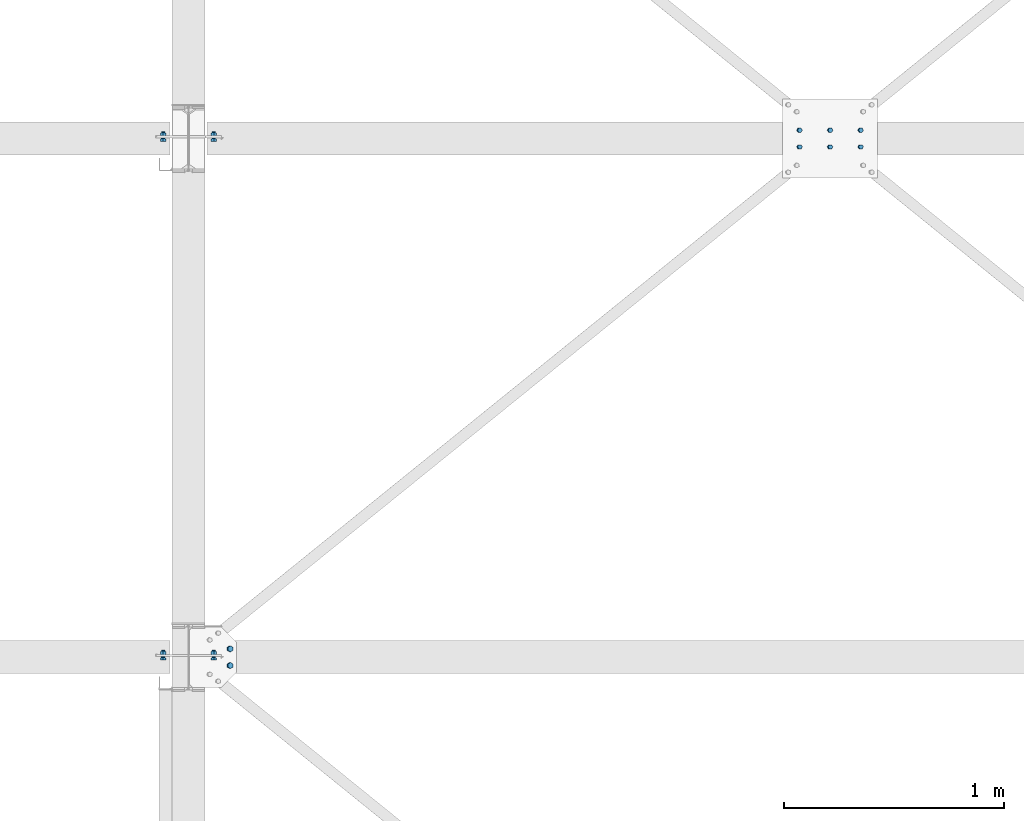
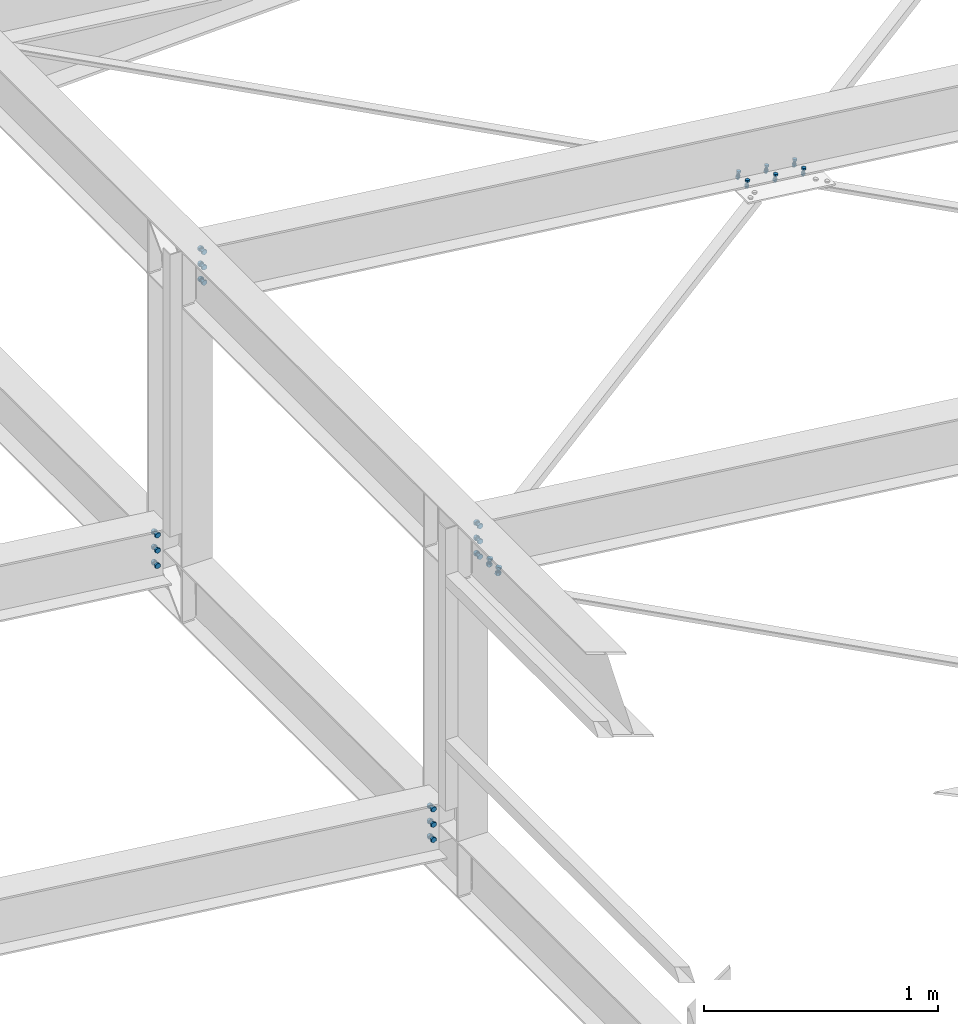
# One storey, part 134 of 3134: 6 mechanical fasteners, 4 elements without a shape of their own.
"""IFC2X3 building model written with IfcOpenShell, lengths in millimetres."""

from ifc_helpers import new_model, si_unit, frame, origin_with_axes, place, context, subcontext, project, spatial, faceted_brep, source, transform, mapped, material, type_object, element, aggregate, save


model = new_model("IFC2X3")

# Units and contexts
model_context = context("Model", 3, precision=1e-05, world=origin_with_axes())
body_context = subcontext(model_context, "Body", "Model", "MODEL_VIEW")
ifc_project = project(units=[si_unit("LENGTHUNIT", "METRE", prefix="MILLI"), si_unit("AREAUNIT", "SQUARE_METRE"), si_unit("VOLUMEUNIT", "CUBIC_METRE"), si_unit("MASSUNIT", "GRAM", prefix="KILO"), si_unit("TIMEUNIT", "SECOND"), si_unit("PLANEANGLEUNIT", "RADIAN"), si_unit("SOLIDANGLEUNIT", "STERADIAN"), si_unit("THERMODYNAMICTEMPERATUREUNIT", "DEGREE_CELSIUS"), si_unit("LUMINOUSINTENSITYUNIT", "LUMEN")], contexts=[model_context])

# Site, building, storey
site_placement = place(None, origin_with_axes())
site = spatial("IfcSite", under=ifc_project, at=site_placement, CompositionType="ELEMENT")
building_placement = place(site_placement, origin_with_axes())
building = spatial("IfcBuilding", under=site, at=building_placement, Name="Undefined", CompositionType="ELEMENT")
storey_placement = place(building_placement, origin_with_axes())
storey = spatial("IfcBuildingStorey", under=building, at=storey_placement, Name="Undefined", CompositionType="ELEMENT", Elevation=0.0)

# Assembly, mechanical fasteners
assembly_1_placement = place(storey_placement, origin_with_axes())
assembly_1 = element("IfcElementAssembly", 1, at=assembly_1_placement, inside=storey, Name="300", AssemblyPlace="NOTDEFINED", PredefinedType="RIGID_FRAME")
ifc_material = material(Name="8.8")
mechanical_fastener_type = type_object("IfcMechanicalFastenerType", Name="Bolt assembly")
shared_shape_1 = source(origin_with_axes(), body_context, "Body", "Brep", [
    faceted_brep([(13.856406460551, -19.199990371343, 0.0), (6.92820323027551, -19.199990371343, 12.0), (-6.92820323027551, -19.199990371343, 12.0), (-13.856406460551, -19.199990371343, 1.69692038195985e-15), (-6.92820323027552, -19.199990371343, -12.0), (6.9282032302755, -19.199990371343, -12.0), (6.9282032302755, -9.19999037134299, -12.0), (-6.92820323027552, -9.19999037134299, -12.0), (-13.856406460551, -9.19999037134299, 1.69692038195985e-15), (-6.92820323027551, -9.19999037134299, 12.0), (6.92820323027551, -9.19999037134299, 12.0), (13.856406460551, -9.19999037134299, 0.0), (8.0, -9.19999037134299, 0.0), (6.92820323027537, -9.19999037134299, 4.00000000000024), (3.99999999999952, -9.19999037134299, 6.92820323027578), (-8.29068785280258e-13, -9.19999037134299, 8.0), (-4.00000000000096, -9.19999037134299, 6.92820323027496), (-6.9282032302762, -9.19999037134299, 3.99999999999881), (-8.0, -9.19999037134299, -1.65813757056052e-12), (-6.92820323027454, -9.19999037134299, -4.00000000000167), (-3.99999999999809, -9.19999037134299, -6.92820323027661), (2.47832457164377e-12, -9.19999037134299, -8.0), (4.00000000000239, -9.19999037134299, -6.92820323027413), (6.92820323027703, -9.19999037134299, -3.99999999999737), (6.92820323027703, 25.800009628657, -3.99999999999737), (4.00000000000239, 25.800009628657, -6.92820323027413), (2.47832457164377e-12, 25.800009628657, -8.0), (-3.99999999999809, 25.800009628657, -6.92820323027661), (-6.92820323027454, 25.800009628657, -4.00000000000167), (-8.0, 25.800009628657, -1.65813757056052e-12), (-6.9282032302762, 25.800009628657, 3.99999999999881), (-4.00000000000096, 25.800009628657, 6.92820323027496), (-8.29068785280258e-13, 25.800009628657, 8.0), (3.99999999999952, 25.800009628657, 6.92820323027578), (6.92820323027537, 25.800009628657, 4.00000000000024), (8.0, 25.800009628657, 0.0), (13.856406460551, 8.00000637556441, 0.0), (6.92820323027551, 8.00000637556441, 12.0), (-6.92820323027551, 8.00000637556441, 12.0), (-13.856406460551, 8.00000637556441, 1.69692038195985e-15), (-6.92820323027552, 8.00000637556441, -12.0), (6.9282032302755, 8.00000637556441, -12.0), (6.9282032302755, 21.0000063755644, -12.0), (-6.92820323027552, 21.0000063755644, -12.0), (-13.856406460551, 21.0000063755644, 1.69692038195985e-15), (-6.92820323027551, 21.0000063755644, 12.0), (6.92820323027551, 21.0000063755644, 12.0), (13.856406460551, 21.0000063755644, 0.0)], [[[0, 1, 2, 3, 4, 5]], [[6, 7, 8, 9, 10, 11]], [[0, 11, 10, 1]], [[1, 10, 9, 2]], [[2, 9, 8, 3]], [[3, 8, 7, 4]], [[4, 7, 6, 5]], [[5, 6, 11, 0]], [[12, 13, 14, 15, 16, 17, 18, 19, 20, 21, 22, 23]], [[24, 25, 26, 27, 28, 29, 30, 31, 32, 33, 34, 35]], [[12, 35, 34, 13]], [[13, 34, 33, 14]], [[14, 33, 32, 15]], [[15, 32, 31, 16]], [[16, 31, 30, 17]], [[17, 30, 29, 18]], [[18, 29, 28, 19]], [[19, 28, 27, 20]], [[20, 27, 26, 21]], [[21, 26, 25, 22]], [[22, 25, 24, 23]], [[23, 24, 35, 12]], [[36, 37, 38, 39, 40, 41]], [[42, 43, 44, 45, 46, 47]], [[36, 47, 46, 37]], [[37, 46, 45, 38]], [[38, 45, 44, 39]], [[39, 44, 43, 40]], [[40, 43, 42, 41]], [[41, 42, 47, 36]]]),
    faceted_brep([(9.0, -0.1, 0.0), (7.79422863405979, -0.1, 4.50000000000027), (4.49999999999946, -0.1, 7.79422863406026), (-9.3270238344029e-13, -0.1, 9.0), (-4.50000000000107, -0.1, 7.79422863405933), (-7.79422863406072, -0.1, 4.49999999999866), (-9.0, -0.1, -1.86540476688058e-12), (-7.79422863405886, -0.1, -4.50000000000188), (-4.49999999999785, -0.1, -7.79422863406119), (2.78811514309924e-12, -0.1, -9.0), (4.50000000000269, -0.1, -7.7942286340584), (7.79422863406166, -0.1, -4.49999999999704), (7.79422863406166, 8.00000000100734, -4.49999999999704), (4.50000000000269, 8.00000000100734, -7.7942286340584), (2.78811514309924e-12, 8.00000000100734, -9.0), (-4.49999999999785, 8.00000000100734, -7.79422863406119), (-7.79422863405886, 8.00000000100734, -4.50000000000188), (-9.0, 8.00000000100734, -1.86540476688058e-12), (-7.79422863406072, 8.00000000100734, 4.49999999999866), (-4.50000000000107, 8.00000000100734, 7.79422863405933), (-9.3270238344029e-13, 8.00000000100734, 9.0), (4.49999999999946, 8.00000000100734, 7.79422863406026), (7.79422863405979, 8.00000000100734, 4.50000000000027), (9.0, 8.00000000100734, 0.0), (9.0, -9.09999037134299, 0.0), (7.79422863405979, -9.09999037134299, 4.50000000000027), (4.49999999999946, -9.09999037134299, 7.79422863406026), (-9.3270238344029e-13, -9.09999037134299, 9.0), (-4.50000000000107, -9.09999037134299, 7.79422863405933), (-7.79422863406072, -9.09999037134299, 4.49999999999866), (-9.0, -9.09999037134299, -1.86540476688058e-12), (-7.79422863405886, -9.09999037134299, -4.50000000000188), (-4.49999999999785, -9.09999037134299, -7.79422863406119), (2.78811514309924e-12, -9.09999037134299, -9.0), (4.50000000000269, -9.09999037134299, -7.7942286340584), (7.79422863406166, -9.09999037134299, -4.49999999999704), (7.79422863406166, 0.100000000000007, -4.49999999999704), (4.50000000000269, 0.100000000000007, -7.7942286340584), (2.78811514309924e-12, 0.100000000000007, -9.0), (-4.49999999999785, 0.100000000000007, -7.79422863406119), (-7.79422863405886, 0.100000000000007, -4.50000000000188), (-9.0, 0.100000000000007, -1.86540476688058e-12), (-7.79422863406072, 0.100000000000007, 4.49999999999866), (-4.50000000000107, 0.100000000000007, 7.79422863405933), (-9.3270238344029e-13, 0.100000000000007, 9.0), (4.49999999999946, 0.100000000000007, 7.79422863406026), (7.79422863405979, 0.100000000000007, 4.50000000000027), (9.0, 0.100000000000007, 0.0)], [[[0, 1, 2, 3, 4, 5, 6, 7, 8, 9, 10, 11]], [[12, 13, 14, 15, 16, 17, 18, 19, 20, 21, 22, 23]], [[0, 23, 22, 1]], [[1, 22, 21, 2]], [[2, 21, 20, 3]], [[3, 20, 19, 4]], [[4, 19, 18, 5]], [[5, 18, 17, 6]], [[6, 17, 16, 7]], [[7, 16, 15, 8]], [[8, 15, 14, 9]], [[9, 14, 13, 10]], [[10, 13, 12, 11]], [[11, 12, 23, 0]], [[24, 25, 26, 27, 28, 29, 30, 31, 32, 33, 34, 35]], [[36, 37, 38, 39, 40, 41, 42, 43, 44, 45, 46, 47]], [[24, 47, 46, 25]], [[25, 46, 45, 26]], [[26, 45, 44, 27]], [[27, 44, 43, 28]], [[28, 43, 42, 29]], [[29, 42, 41, 30]], [[30, 41, 40, 31]], [[31, 40, 39, 32]], [[32, 39, 38, 33]], [[33, 38, 37, 34]], [[34, 37, 36, 35]], [[35, 36, 47, 24]]]),
])
mechanical_fastener_1_placement = place(assembly_1_placement, frame((32714.2248162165, 14767.9995130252, 5496.68063425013), z_axis=(0.992623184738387, 1.63108538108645e-05, -0.12124031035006), x_axis=(1.62000016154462e-05, -0.999999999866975, -1.90000018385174e-06)))
mechanical_fastener_1 = element("IfcMechanicalFastener", 2, at=mechanical_fastener_1_placement, type_object=mechanical_fastener_type, material=ifc_material, Name="Bolt assembly", NominalDiameter=16.0, NominalLength=35.0, context=body_context, shape_type="MappedRepresentation", body=[
    mapped(shared_shape_1, transform((0.0, 0.0, 0.0))),
    mapped(shared_shape_1, transform((76.0, 0.0, 0.0))),
])
shared_shape_2 = source(origin_with_axes(), body_context, "Body", "Brep", [
    faceted_brep([(13.856406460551, -13.0499999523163, 0.0), (6.92820323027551, -13.0499999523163, 12.0), (-6.92820323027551, -13.0499999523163, 12.0), (-13.856406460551, -13.0499999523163, 1.69692038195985e-15), (-6.92820323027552, -13.0499999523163, -12.0), (6.9282032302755, -13.0499999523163, -12.0), (6.9282032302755, -3.04999995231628, -12.0), (-6.92820323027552, -3.04999995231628, -12.0), (-13.856406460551, -3.04999995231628, 1.69692038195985e-15), (-6.92820323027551, -3.04999995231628, 12.0), (6.92820323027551, -3.04999995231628, 12.0), (13.856406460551, -3.04999995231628, 0.0), (8.0, -3.04999995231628, 0.0), (6.92820323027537, -3.04999995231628, 4.00000000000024), (3.99999999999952, -3.04999995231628, 6.92820323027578), (-8.29068785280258e-13, -3.04999995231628, 8.0), (-4.00000000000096, -3.04999995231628, 6.92820323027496), (-6.9282032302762, -3.04999995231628, 3.99999999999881), (-8.0, -3.04999995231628, -1.65813757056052e-12), (-6.92820323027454, -3.04999995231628, -4.00000000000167), (-3.99999999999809, -3.04999995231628, -6.92820323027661), (2.47832457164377e-12, -3.04999995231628, -8.0), (4.00000000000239, -3.04999995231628, -6.92820323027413), (6.92820323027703, -3.04999995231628, -3.99999999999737), (6.92820323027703, 31.9500000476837, -3.99999999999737), (4.00000000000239, 31.9500000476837, -6.92820323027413), (2.47832457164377e-12, 31.9500000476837, -8.0), (-3.99999999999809, 31.9500000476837, -6.92820323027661), (-6.92820323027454, 31.9500000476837, -4.00000000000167), (-8.0, 31.9500000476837, -1.65813757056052e-12), (-6.9282032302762, 31.9500000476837, 3.99999999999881), (-4.00000000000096, 31.9500000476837, 6.92820323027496), (-8.29068785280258e-13, 31.9500000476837, 8.0), (3.99999999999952, 31.9500000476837, 6.92820323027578), (6.92820323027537, 31.9500000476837, 4.00000000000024), (8.0, 31.9500000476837, 0.0), (13.856406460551, 13.0500000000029, 0.0), (6.92820323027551, 13.0500000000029, 12.0), (-6.92820323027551, 13.0500000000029, 12.0), (-13.856406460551, 13.0500000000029, 1.69692038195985e-15), (-6.92820323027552, 13.0500000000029, -12.0), (6.9282032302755, 13.0500000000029, -12.0), (6.9282032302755, 26.0500000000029, -12.0), (-6.92820323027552, 26.0500000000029, -12.0), (-13.856406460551, 26.0500000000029, 1.69692038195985e-15), (-6.92820323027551, 26.0500000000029, 12.0), (6.92820323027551, 26.0500000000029, 12.0), (13.856406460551, 26.0500000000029, 0.0)], [[[0, 1, 2, 3, 4, 5]], [[6, 7, 8, 9, 10, 11]], [[0, 11, 10, 1]], [[1, 10, 9, 2]], [[2, 9, 8, 3]], [[3, 8, 7, 4]], [[4, 7, 6, 5]], [[5, 6, 11, 0]], [[12, 13, 14, 15, 16, 17, 18, 19, 20, 21, 22, 23]], [[24, 25, 26, 27, 28, 29, 30, 31, 32, 33, 34, 35]], [[12, 35, 34, 13]], [[13, 34, 33, 14]], [[14, 33, 32, 15]], [[15, 32, 31, 16]], [[16, 31, 30, 17]], [[17, 30, 29, 18]], [[18, 29, 28, 19]], [[19, 28, 27, 20]], [[20, 27, 26, 21]], [[21, 26, 25, 22]], [[22, 25, 24, 23]], [[23, 24, 35, 12]], [[36, 37, 38, 39, 40, 41]], [[42, 43, 44, 45, 46, 47]], [[36, 47, 46, 37]], [[37, 46, 45, 38]], [[38, 45, 44, 39]], [[39, 44, 43, 40]], [[40, 43, 42, 41]], [[41, 42, 47, 36]]]),
    faceted_brep([(9.0, 2.95000000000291, 0.0), (7.79422863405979, 2.95000000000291, 4.50000000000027), (4.49999999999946, 2.95000000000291, 7.79422863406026), (-9.3270238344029e-13, 2.95000000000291, 9.0), (-4.50000000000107, 2.95000000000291, 7.79422863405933), (-7.79422863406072, 2.95000000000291, 4.49999999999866), (-9.0, 2.95000000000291, -1.86540476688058e-12), (-7.79422863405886, 2.95000000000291, -4.50000000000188), (-4.49999999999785, 2.95000000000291, -7.79422863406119), (2.78811514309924e-12, 2.95000000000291, -9.0), (4.50000000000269, 2.95000000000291, -7.7942286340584), (7.79422863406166, 2.95000000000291, -4.49999999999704), (7.79422863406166, 13.0500000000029, -4.49999999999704), (4.50000000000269, 13.0500000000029, -7.7942286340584), (2.78811514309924e-12, 13.0500000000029, -9.0), (-4.49999999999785, 13.0500000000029, -7.79422863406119), (-7.79422863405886, 13.0500000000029, -4.50000000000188), (-9.0, 13.0500000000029, -1.86540476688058e-12), (-7.79422863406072, 13.0500000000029, 4.49999999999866), (-4.50000000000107, 13.0500000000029, 7.79422863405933), (-9.3270238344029e-13, 13.0500000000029, 9.0), (4.49999999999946, 13.0500000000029, 7.79422863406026), (7.79422863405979, 13.0500000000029, 4.50000000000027), (9.0, 13.0500000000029, 0.0), (9.0, -2.94999995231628, 0.0), (7.79422863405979, -2.94999995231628, 4.50000000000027), (4.49999999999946, -2.94999995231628, 7.79422863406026), (-9.3270238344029e-13, -2.94999995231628, 9.0), (-4.50000000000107, -2.94999995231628, 7.79422863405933), (-7.79422863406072, -2.94999995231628, 4.49999999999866), (-9.0, -2.94999995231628, -1.86540476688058e-12), (-7.79422863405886, -2.94999995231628, -4.50000000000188), (-4.49999999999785, -2.94999995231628, -7.79422863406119), (2.78811514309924e-12, -2.94999995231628, -9.0), (4.50000000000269, -2.94999995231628, -7.7942286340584), (7.79422863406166, -2.94999995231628, -4.49999999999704), (7.79422863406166, 3.14999995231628, -4.49999999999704), (4.50000000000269, 3.14999995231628, -7.7942286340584), (2.78811514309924e-12, 3.14999995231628, -9.0), (-4.49999999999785, 3.14999995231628, -7.79422863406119), (-7.79422863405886, 3.14999995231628, -4.50000000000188), (-9.0, 3.14999995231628, -1.86540476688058e-12), (-7.79422863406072, 3.14999995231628, 4.49999999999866), (-4.50000000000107, 3.14999995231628, 7.79422863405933), (-9.3270238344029e-13, 3.14999995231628, 9.0), (4.49999999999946, 3.14999995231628, 7.79422863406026), (7.79422863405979, 3.14999995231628, 4.50000000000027), (9.0, 3.14999995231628, 0.0)], [[[0, 1, 2, 3, 4, 5, 6, 7, 8, 9, 10, 11]], [[12, 13, 14, 15, 16, 17, 18, 19, 20, 21, 22, 23]], [[0, 23, 22, 1]], [[1, 22, 21, 2]], [[2, 21, 20, 3]], [[3, 20, 19, 4]], [[4, 19, 18, 5]], [[5, 18, 17, 6]], [[6, 17, 16, 7]], [[7, 16, 15, 8]], [[8, 15, 14, 9]], [[9, 14, 13, 10]], [[10, 13, 12, 11]], [[11, 12, 23, 0]], [[24, 25, 26, 27, 28, 29, 30, 31, 32, 33, 34, 35]], [[36, 37, 38, 39, 40, 41, 42, 43, 44, 45, 46, 47]], [[24, 47, 46, 25]], [[25, 46, 45, 26]], [[26, 45, 44, 27]], [[27, 44, 43, 28]], [[28, 43, 42, 29]], [[29, 42, 41, 30]], [[30, 41, 40, 31]], [[31, 40, 39, 32]], [[32, 39, 38, 33]], [[33, 38, 37, 34]], [[34, 37, 36, 35]], [[35, 36, 47, 24]]]),
])
mechanical_fastener_2_placement = place(assembly_1_placement, frame((32639.9999999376, 14730.0, 5735.35014954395), z_axis=(1.0, 0.0, 0.0), x_axis=(0.0, 0.0, -1.0)))
mechanical_fastener_2 = element("IfcMechanicalFastener", 3, at=mechanical_fastener_2_placement, type_object=mechanical_fastener_type, material=ifc_material, Name="Bolt assembly", NominalDiameter=16.0, NominalLength=35.0, context=body_context, shape_type="MappedRepresentation", body=[
    mapped(shared_shape_2, transform((0.0, 0.0, 0.0))),
    mapped(shared_shape_2, transform((80.0, 0.0, 0.0))),
    mapped(shared_shape_2, transform((160.0, 0.0, 0.0))),
])
aggregate(assembly_1, [mechanical_fastener_1, mechanical_fastener_2])

# Assembly, mechanical fastener
assembly_2_placement = place(storey_placement, origin_with_axes())
assembly_2 = element("IfcElementAssembly", 4, at=assembly_2_placement, inside=storey, Name="300", AssemblyPlace="NOTDEFINED", PredefinedType="RIGID_FRAME")
mechanical_fastener_3_placement = place(assembly_2_placement, frame((32640.0, 17090.0, 5735.35014950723), z_axis=(1.0, 0.0, 0.0), x_axis=(0.0, 0.0, -1.0)))
mechanical_fastener_3 = element("IfcMechanicalFastener", 5, at=mechanical_fastener_3_placement, type_object=mechanical_fastener_type, material=ifc_material, Name="Bolt assembly", NominalDiameter=16.0, NominalLength=35.0, context=body_context, shape_type="MappedRepresentation", body=[
    mapped(shared_shape_2, transform((0.0, 0.0, 0.0))),
    mapped(shared_shape_2, transform((80.0, 0.0, 0.0))),
    mapped(shared_shape_2, transform((160.0, 0.0, 0.0))),
])

assembly_3_placement = place(storey_placement, origin_with_axes())
assembly_3 = element("IfcElementAssembly", 6, at=assembly_3_placement, inside=storey, Name="300", AssemblyPlace="NOTDEFINED", PredefinedType="RIGID_FRAME")
mechanical_fastener_4_placement = place(assembly_3_placement, frame((32410.0, 14730.0, 4337.44269270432), z_axis=(1.0, 0.0, 0.0), x_axis=(0.0, 0.0, -1.0)))
mechanical_fastener_4 = element("IfcMechanicalFastener", 7, at=mechanical_fastener_4_placement, type_object=mechanical_fastener_type, material=ifc_material, Name="Bolt assembly", NominalDiameter=16.0, NominalLength=35.0, context=body_context, shape_type="MappedRepresentation", body=[
    mapped(shared_shape_2, transform((0.0, 0.0, 0.0))),
    mapped(shared_shape_2, transform((80.0, 0.0, 0.0))),
    mapped(shared_shape_2, transform((160.0, 0.0, 0.0))),
])
aggregate(assembly_3, [mechanical_fastener_4])

assembly_4_placement = place(storey_placement, origin_with_axes())
assembly_4 = element("IfcElementAssembly", 8, at=assembly_4_placement, inside=storey, Name="300", AssemblyPlace="NOTDEFINED", PredefinedType="RIGID_FRAME")
mechanical_fastener_5_placement = place(assembly_4_placement, frame((32410.0, 17090.0, 4337.44269270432), z_axis=(1.0, 0.0, 0.0), x_axis=(0.0, 0.0, -1.0)))
mechanical_fastener_5 = element("IfcMechanicalFastener", 9, at=mechanical_fastener_5_placement, type_object=mechanical_fastener_type, material=ifc_material, Name="Bolt assembly", NominalDiameter=16.0, NominalLength=35.0, context=body_context, shape_type="MappedRepresentation", body=[
    mapped(shared_shape_2, transform((0.0, 0.0, 0.0))),
    mapped(shared_shape_2, transform((80.0, 0.0, 0.0))),
    mapped(shared_shape_2, transform((160.0, 0.0, 0.0))),
])
aggregate(assembly_4, [mechanical_fastener_5])

# Mechanical fastener
shared_shape_3 = source(origin_with_axes(), body_context, "Body", "Brep", [
    faceted_brep([(10.9696551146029, -17.1999998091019, 0.0), (5.48482755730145, -17.1999998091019, 9.5), (-5.48482755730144, -17.1999998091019, 9.5), (-10.9696551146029, -17.1999998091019, 1.34339530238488e-15), (-5.48482755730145, -17.1999998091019, -9.5), (5.48482755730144, -17.1999998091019, -9.50000000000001), (5.48482755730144, -9.19999978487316, -9.50000000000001), (-5.48482755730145, -9.19999978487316, -9.5), (-10.9696551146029, -9.19999978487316, 1.34339530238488e-15), (-5.48482755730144, -9.19999978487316, 9.5), (5.48482755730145, -9.19999978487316, 9.5), (10.9696551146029, -9.19999978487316, 0.0), (6.0, -9.19999978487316, 0.0), (5.19615242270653, -9.19999978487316, 3.00000000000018), (2.99999999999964, -9.19999978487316, 5.19615242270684), (-6.21801588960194e-13, -9.19999978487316, 6.0), (-3.00000000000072, -9.19999978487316, 5.19615242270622), (-5.19615242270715, -9.19999978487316, 2.9999999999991), (-6.0, -9.19999978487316, -1.24360317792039e-12), (-5.19615242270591, -9.19999978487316, -3.00000000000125), (-2.99999999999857, -9.19999978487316, -5.19615242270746), (1.85874342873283e-12, -9.19999978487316, -6.0), (3.00000000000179, -9.19999978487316, -5.1961524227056), (5.19615242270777, -9.19999978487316, -2.99999999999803), (5.19615242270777, 25.8000002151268, -2.99999999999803), (3.00000000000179, 25.8000002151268, -5.1961524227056), (1.85874342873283e-12, 25.8000002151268, -6.0), (-2.99999999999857, 25.8000002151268, -5.19615242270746), (-5.19615242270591, 25.8000002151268, -3.00000000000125), (-6.0, 25.8000002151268, -1.24360317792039e-12), (-5.19615242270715, 25.8000002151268, 2.9999999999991), (-3.00000000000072, 25.8000002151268, 5.19615242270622), (-6.21801588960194e-13, 25.8000002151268, 6.0), (2.99999999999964, 25.8000002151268, 5.19615242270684), (5.19615242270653, 25.8000002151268, 3.00000000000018), (6.0, 25.8000002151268, 0.0), (10.9696551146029, 8.0, 0.0), (5.48482755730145, 8.0, 9.5), (-5.48482755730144, 8.0, 9.5), (-10.9696551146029, 8.0, 1.34339530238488e-15), (-5.48482755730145, 8.0, -9.5), (5.48482755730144, 8.0, -9.50000000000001), (5.48482755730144, 18.0, -9.50000000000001), (-5.48482755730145, 18.0, -9.5), (-10.9696551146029, 18.0, 1.34339530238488e-15), (-5.48482755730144, 18.0, 9.5), (5.48482755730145, 18.0, 9.5), (10.9696551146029, 18.0, 0.0)], [[[0, 1, 2, 3, 4, 5]], [[6, 7, 8, 9, 10, 11]], [[0, 11, 10, 1]], [[1, 10, 9, 2]], [[2, 9, 8, 3]], [[3, 8, 7, 4]], [[4, 7, 6, 5]], [[5, 6, 11, 0]], [[12, 13, 14, 15, 16, 17, 18, 19, 20, 21, 22, 23]], [[24, 25, 26, 27, 28, 29, 30, 31, 32, 33, 34, 35]], [[12, 35, 34, 13]], [[13, 34, 33, 14]], [[14, 33, 32, 15]], [[15, 32, 31, 16]], [[16, 31, 30, 17]], [[17, 30, 29, 18]], [[18, 29, 28, 19]], [[19, 28, 27, 20]], [[20, 27, 26, 21]], [[21, 26, 25, 22]], [[22, 25, 24, 23]], [[23, 24, 35, 12]], [[36, 37, 38, 39, 40, 41]], [[42, 43, 44, 45, 46, 47]], [[36, 47, 46, 37]], [[37, 46, 45, 38]], [[38, 45, 44, 39]], [[39, 44, 43, 40]], [[40, 43, 42, 41]], [[41, 42, 47, 36]]]),
    faceted_brep([(7.0, -0.1, 0.0), (6.06217782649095, -0.1, 3.50000000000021), (3.49999999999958, -0.1, 6.06217782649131), (-7.25435187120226e-13, -0.1, 7.0), (-3.50000000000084, -0.1, 6.06217782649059), (-6.06217782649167, -0.1, 3.49999999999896), (-7.0, -0.1, -1.45087037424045e-12), (-6.06217782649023, -0.1, -3.50000000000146), (-3.49999999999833, -0.1, -6.06217782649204), (2.1685340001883e-12, -0.1, -7.0), (3.50000000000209, -0.1, -6.06217782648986), (6.0621778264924, -0.1, -3.4999999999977), (6.0621778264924, 8.0000000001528, -3.4999999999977), (3.50000000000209, 8.0000000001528, -6.06217782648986), (2.1685340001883e-12, 8.0000000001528, -7.0), (-3.49999999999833, 8.0000000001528, -6.06217782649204), (-6.06217782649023, 8.0000000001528, -3.50000000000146), (-7.0, 8.0000000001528, -1.45087037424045e-12), (-6.06217782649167, 8.0000000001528, 3.49999999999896), (-3.50000000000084, 8.0000000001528, 6.06217782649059), (-7.25435187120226e-13, 8.0000000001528, 7.0), (3.49999999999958, 8.0000000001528, 6.06217782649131), (6.06217782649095, 8.0000000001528, 3.50000000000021), (7.0, 8.0000000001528, 0.0), (7.0, -9.09999980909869, 0.0), (6.06217782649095, -9.09999980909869, 3.50000000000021), (3.49999999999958, -9.09999980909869, 6.06217782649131), (-7.25435187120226e-13, -9.09999980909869, 7.0), (-3.50000000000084, -9.09999980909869, 6.06217782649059), (-6.06217782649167, -9.09999980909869, 3.49999999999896), (-7.0, -9.09999980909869, -1.45087037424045e-12), (-6.06217782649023, -9.09999980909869, -3.50000000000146), (-3.49999999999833, -9.09999980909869, -6.06217782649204), (2.1685340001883e-12, -9.09999980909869, -7.0), (3.50000000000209, -9.09999980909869, -6.06217782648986), (6.0621778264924, -9.09999980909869, -3.4999999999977), (6.0621778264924, 0.0999999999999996, -3.4999999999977), (3.50000000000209, 0.0999999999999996, -6.06217782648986), (2.1685340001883e-12, 0.0999999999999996, -7.0), (-3.49999999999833, 0.0999999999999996, -6.06217782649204), (-6.06217782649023, 0.0999999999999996, -3.50000000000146), (-7.0, 0.0999999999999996, -1.45087037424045e-12), (-6.06217782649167, 0.0999999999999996, 3.49999999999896), (-3.50000000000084, 0.0999999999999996, 6.06217782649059), (-7.25435187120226e-13, 0.0999999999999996, 7.0), (3.49999999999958, 0.0999999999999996, 6.06217782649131), (6.06217782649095, 0.0999999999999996, 3.50000000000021), (7.0, 0.0999999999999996, 0.0)], [[[0, 1, 2, 3, 4, 5, 6, 7, 8, 9, 10, 11]], [[12, 13, 14, 15, 16, 17, 18, 19, 20, 21, 22, 23]], [[0, 23, 22, 1]], [[1, 22, 21, 2]], [[2, 21, 20, 3]], [[3, 20, 19, 4]], [[4, 19, 18, 5]], [[5, 18, 17, 6]], [[6, 17, 16, 7]], [[7, 16, 15, 8]], [[8, 15, 14, 9]], [[9, 14, 13, 10]], [[10, 13, 12, 11]], [[11, 12, 23, 0]], [[24, 25, 26, 27, 28, 29, 30, 31, 32, 33, 34, 35]], [[36, 37, 38, 39, 40, 41, 42, 43, 44, 45, 46, 47]], [[24, 47, 46, 25]], [[25, 46, 45, 26]], [[26, 45, 44, 27]], [[27, 44, 43, 28]], [[28, 43, 42, 29]], [[29, 42, 41, 30]], [[30, 41, 40, 31]], [[31, 40, 39, 32]], [[32, 39, 38, 33]], [[33, 38, 37, 34]], [[34, 37, 36, 35]], [[35, 36, 47, 24]]]),
])
mechanical_fastener_6_placement = place(assembly_2_placement, frame((35583.2022067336, 17090.0, 5146.25993623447), z_axis=(0.0, -1.0, 0.0), x_axis=(-0.992623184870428, 0.0, 0.121240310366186)))
mechanical_fastener_6 = element("IfcMechanicalFastener", 10, at=mechanical_fastener_6_placement, type_object=mechanical_fastener_type, material=ifc_material, Name="Bolt assembly", NominalDiameter=12.0, NominalLength=35.0, context=body_context, shape_type="MappedRepresentation", body=[
    mapped(shared_shape_3, transform((0.0, 0.0, -38.0))),
    mapped(shared_shape_3, transform((140.000000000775, 5.85714587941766e-10, -38.0))),
    mapped(shared_shape_3, transform((279.999999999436, -4.74756234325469e-10, -38.0))),
    mapped(shared_shape_3, transform((0.0, 0.0, 38.0))),
    mapped(shared_shape_3, transform((140.000000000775, 5.85714587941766e-10, 38.0))),
    mapped(shared_shape_3, transform((279.999999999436, -4.74756234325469e-10, 38.0))),
])

aggregate(assembly_2, [mechanical_fastener_6, mechanical_fastener_3])

save(model, "model.ifc")
